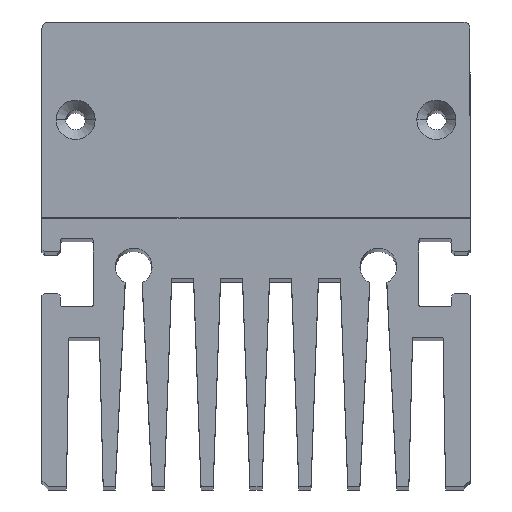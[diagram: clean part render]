
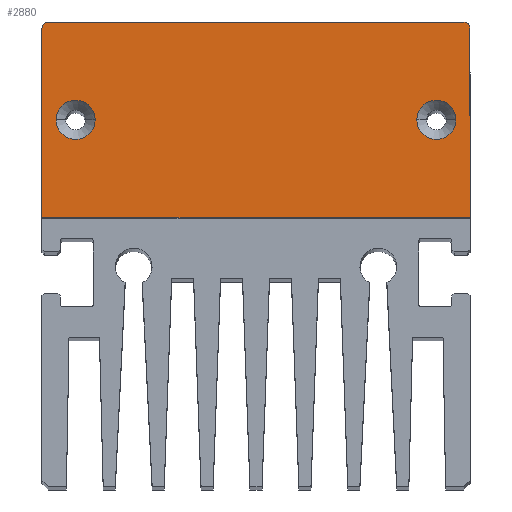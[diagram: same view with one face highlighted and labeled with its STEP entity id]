
A CAD part, top view. The second image highlights one B-rep face of the part: STEP entity #2880.
In plain terms, the highlighted planar face has unit normal (0, 0, 1).
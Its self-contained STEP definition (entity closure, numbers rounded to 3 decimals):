
#629=DIRECTION('',(1.,0.,0.));
#630=VECTOR('',#629,35.001);
#631=CARTESIAN_POINT('',(-17.5,2.8,77.));
#632=LINE('',#631,#630);
#633=CARTESIAN_POINT('',(-17.,18.3,77.));
#634=DIRECTION('',(0.,0.,1.));
#635=DIRECTION('',(0.,1.,0.));
#636=AXIS2_PLACEMENT_3D('',#633,#634,#635);
#638=CARTESIAN_POINT('',(17.497,18.3,77.));
#639=CARTESIAN_POINT('',(17.497,18.369,77.));
#640=CARTESIAN_POINT('',(17.469,18.495,77.));
#641=CARTESIAN_POINT('',(17.359,18.663,77.));
#642=CARTESIAN_POINT('',(17.19,18.774,77.));
#643=CARTESIAN_POINT('',(17.066,18.8,77.));
#644=CARTESIAN_POINT('',(16.997,18.8,77.));
#646=CARTESIAN_POINT('',(14.75,10.8,77.));
#647=DIRECTION('',(0.,0.,-1.));
#648=DIRECTION('',(-1.,0.,0.));
#649=AXIS2_PLACEMENT_3D('',#646,#647,#648);
#651=CARTESIAN_POINT('',(14.75,10.8,77.));
#652=DIRECTION('',(0.,0.,-1.));
#653=DIRECTION('',(1.,0.,0.));
#654=AXIS2_PLACEMENT_3D('',#651,#652,#653);
#656=CARTESIAN_POINT('',(-14.75,10.8,77.));
#657=DIRECTION('',(0.,0.,-1.));
#658=DIRECTION('',(-1.,0.,0.));
#659=AXIS2_PLACEMENT_3D('',#656,#657,#658);
#661=CARTESIAN_POINT('',(-14.75,10.8,77.));
#662=DIRECTION('',(0.,0.,-1.));
#663=DIRECTION('',(1.,0.,0.));
#664=AXIS2_PLACEMENT_3D('',#661,#662,#663);
#706=DIRECTION('',(0.,-1.,0.));
#707=VECTOR('',#706,15.5);
#708=CARTESIAN_POINT('',(-17.5,18.3,77.));
#709=LINE('',#708,#707);
#1118=DIRECTION('',(0.,1.,0.));
#1119=VECTOR('',#1118,15.5);
#1120=CARTESIAN_POINT('',(17.501,2.8,77.));
#1121=LINE('',#1120,#1119);
#1666=DIRECTION('',(-1.,0.,0.));
#1667=VECTOR('',#1666,33.997);
#1668=CARTESIAN_POINT('',(16.997,18.8,77.));
#1669=LINE('',#1668,#1667);
#2264=CARTESIAN_POINT('',(-17.,18.8,77.));
#2265=CARTESIAN_POINT('',(-17.5,18.3,77.));
#2266=VERTEX_POINT('',#2264);
#2267=VERTEX_POINT('',#2265);
#2268=VERTEX_POINT('',#638);
#2269=VERTEX_POINT('',#644);
#2274=CARTESIAN_POINT('',(-17.5,2.8,77.));
#2275=CARTESIAN_POINT('',(17.501,2.8,77.));
#2276=VERTEX_POINT('',#2274);
#2277=VERTEX_POINT('',#2275);
#2416=CARTESIAN_POINT('',(13.15,10.8,77.));
#2417=CARTESIAN_POINT('',(16.35,10.8,77.));
#2418=VERTEX_POINT('',#2416);
#2419=VERTEX_POINT('',#2417);
#2424=CARTESIAN_POINT('',(-16.35,10.8,77.));
#2425=CARTESIAN_POINT('',(-13.15,10.8,77.));
#2426=VERTEX_POINT('',#2424);
#2427=VERTEX_POINT('',#2425);
#2850=CARTESIAN_POINT('',(0.,0.,77.));
#2851=DIRECTION('',(0.,0.,1.));
#2852=DIRECTION('',(1.,0.,0.));
#2853=AXIS2_PLACEMENT_3D('',#2850,#2851,#2852);
#2854=PLANE('',#2853);
#2856=ORIENTED_EDGE('',*,*,#2855,.F.);
#2858=ORIENTED_EDGE('',*,*,#2857,.F.);
#2860=ORIENTED_EDGE('',*,*,#2859,.F.);
#2862=ORIENTED_EDGE('',*,*,#2861,.F.);
#2864=ORIENTED_EDGE('',*,*,#2863,.F.);
#2866=ORIENTED_EDGE('',*,*,#2865,.F.);
#2867=EDGE_LOOP('',(#2856,#2858,#2860,#2862,#2864,#2866));
#2868=FACE_OUTER_BOUND('',#2867,.F.);
#2870=ORIENTED_EDGE('',*,*,#2869,.F.);
#2872=ORIENTED_EDGE('',*,*,#2871,.F.);
#2873=EDGE_LOOP('',(#2870,#2872));
#2874=FACE_BOUND('',#2873,.F.);
#2875=ORIENTED_EDGE('',*,*,#2692,.F.);
#2877=ORIENTED_EDGE('',*,*,#2876,.F.);
#2878=EDGE_LOOP('',(#2875,#2877));
#2879=FACE_BOUND('',#2878,.F.);
#637=CIRCLE('',#636,0.5);
#645=B_SPLINE_CURVE_WITH_KNOTS('',3,(#638,#639,#640,#641,#642,#643,#644),
.UNSPECIFIED.,.F.,.F.,(4,1,1,1,4),(0.,0.25,0.5,0.75,1.),
.UNSPECIFIED.);
#650=CIRCLE('',#649,1.6);
#655=CIRCLE('',#654,1.6);
#660=CIRCLE('',#659,1.6);
#665=CIRCLE('',#664,1.6);
#2692=EDGE_CURVE('',#2426,#2427,#660,.T.);
#2855=EDGE_CURVE('',#2276,#2277,#632,.T.);
#2857=EDGE_CURVE('',#2267,#2276,#709,.T.);
#2859=EDGE_CURVE('',#2266,#2267,#637,.T.);
#2861=EDGE_CURVE('',#2269,#2266,#1669,.T.);
#2863=EDGE_CURVE('',#2268,#2269,#645,.T.);
#2865=EDGE_CURVE('',#2277,#2268,#1121,.T.);
#2869=EDGE_CURVE('',#2418,#2419,#650,.T.);
#2871=EDGE_CURVE('',#2419,#2418,#655,.T.);
#2876=EDGE_CURVE('',#2427,#2426,#665,.T.);
#2880=ADVANCED_FACE('',(#2868,#2874,#2879),#2854,.T.);
